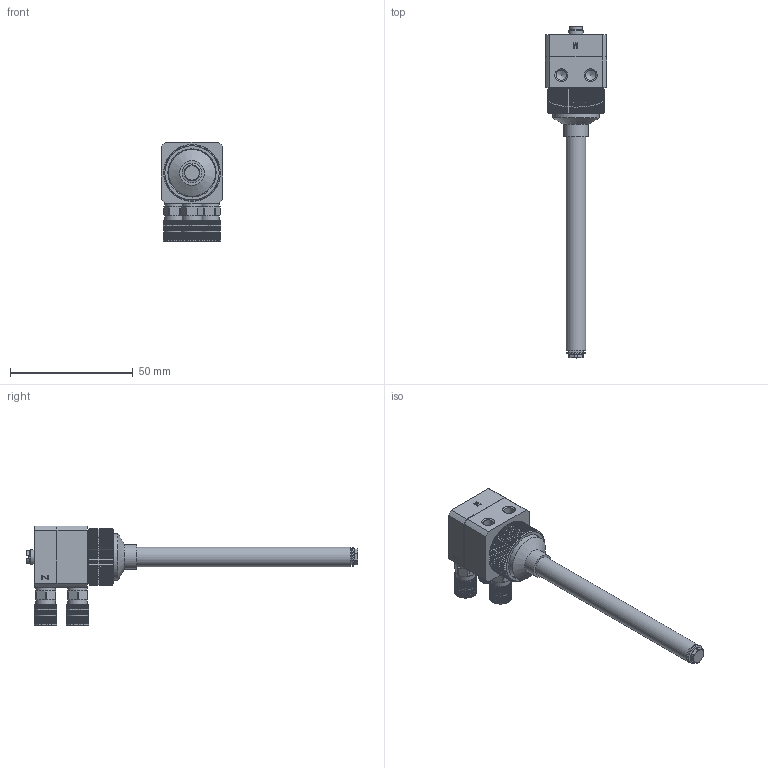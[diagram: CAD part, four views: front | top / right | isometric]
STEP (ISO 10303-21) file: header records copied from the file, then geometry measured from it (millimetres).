
FILE_DESCRIPTION (( 'STEP AP214' ), '1' );
FILE_NAME ('DAS-30-100-8-HP.STEP', '2024-10-11T09:58:58', ( '' ), ( '' ), 'SwSTEP 2.0', 'SolidWorks 2024', '' );
FILE_SCHEMA (( 'AUTOMOTIVE_DESIGN' ));
Length unit declared in the file: millimetre
Products named in the file (1): DAS-30-100-8-HP
Bounding box: 25 x 135 x 40.5 mm (x, y, z)
Volume: 24337.5 mm3; surface area: 14459 mm2
Topology: 2 solids, 10 shells, 1700 faces, 4487 edges, 2865 vertices
Faces by surface type: plane 1020, cylinder 439, cone 235, bspline 6
Full cylindrical faces by diameter (mm): 0.8 x3, 1.5 x4, 2.5 x1, 3 x6, 3.2 x4, 4 x3, 4.198 x2, 4.2 x2, 4.5 x3, 5 x5, 5.001 x1, 5.1 x3, 5.2 x1, 5.4 x3, 5.5 x3, 5.7 x3, 5.8 x1, 6 x1, 6.2 x3, 6.8 x1, 7.498 x3, 7.5 x3, 8 x9, 8.001 x1, 8.2 x1, 8.7 x3, 10 x2, 14 x1, 19 x1, 19.2 x1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
Entity records: 52406 total; most frequent: CARTESIAN_POINT 11967, ORIENTED_EDGE 8500, DIRECTION 8080, EDGE_CURVE 4250, AXIS2_PLACEMENT_3D 2833, VERTEX_POINT 2786, LINE 2414, VECTOR 2414
